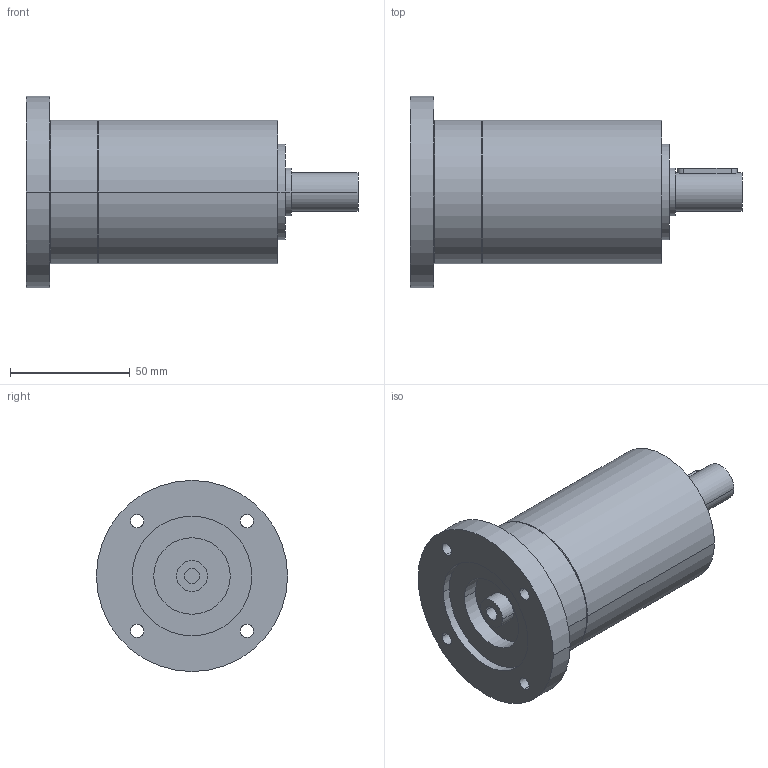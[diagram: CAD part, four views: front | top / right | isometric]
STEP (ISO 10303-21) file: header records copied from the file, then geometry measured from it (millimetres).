
FILE_DESCRIPTION(('CoCreate Modeling STEP Export'),'2;1');
FILE_NAME('GPR75_ig-9-12-16-20-24-30-36_16_B14_6.35_P13.stp','2014-08-25T16:04:01',(''),(''),'CoCreate Modeling STEP processor for AP214 (Solid Model)','CoCreate Modeling 16.00C 25-Feb-2009 (C) Parametric Technology GmbH','');
FILE_SCHEMA(('AUTOMOTIVE_DESIGN { 1 0 10303 214 1 1 1 1 }'));
Length unit declared in the file: millimetre
Products named in the file (2): GPR75_ig-9-12-16-20-24-30-36_16_B14_6.35_P13
Assembly tree (1 placements, depth 2):
  GPR75_ig-9-12-16-20-24-30-36_16_B14_6.35_P13
    GPR75_ig-9-12-16-20-24-30-36_16_B14_6.35_P13
Bounding box: 138.9 x 80 x 80 mm (x, y, z)
Volume: 315772.1 mm3; surface area: 36243.2 mm2
Topology: 1 solids, 1 shells, 80 faces, 214 edges, 148 vertices
Faces by surface type: cylinder 48, plane 26, cone 6
Entity records: 2100 total; most frequent: ORIENTED_EDGE 424, CARTESIAN_POINT 379, DIRECTION 274, EDGE_CURVE 212, VERTEX_POINT 148, AXIS2_PLACEMENT_3D 107, EDGE_LOOP 102, FACE_OUTER_BOUND 80
